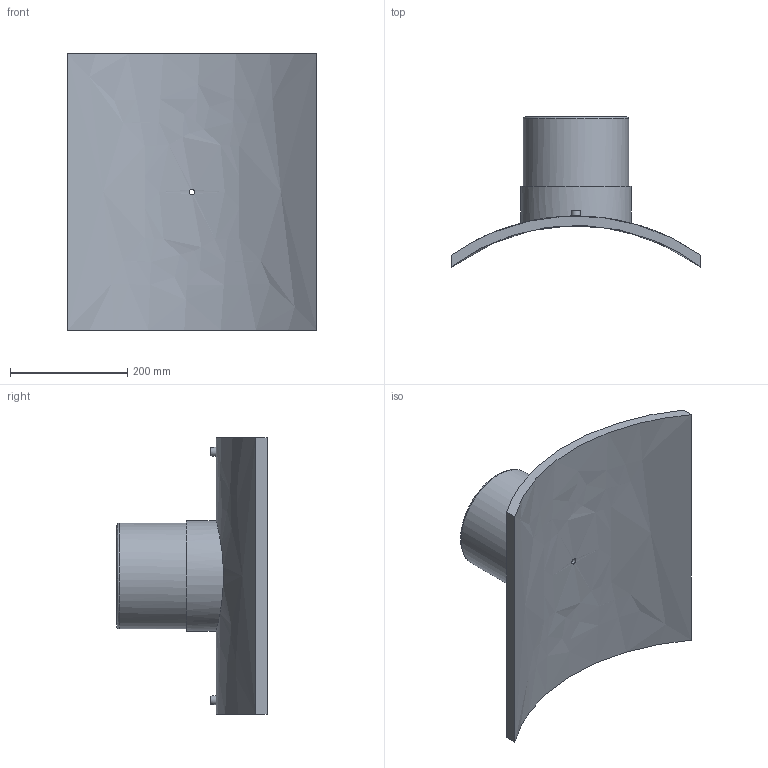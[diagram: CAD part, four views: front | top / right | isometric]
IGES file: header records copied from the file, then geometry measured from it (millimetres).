
Global section: file name: 495803710180T; native system: Autodesk Inventor 2019; preprocessor: unknown; author: KIM; date: 20240404.115432; units: millimetre
Bounding box: 425 x 255.63 x 470 mm (x, y, z)
Volume: 5159673.7 mm3; surface area: 645980.6 mm2
Topology: 1 solids, 1 shells, 29 faces, 60 edges, 43 vertices
Faces by surface type: bspline 29
